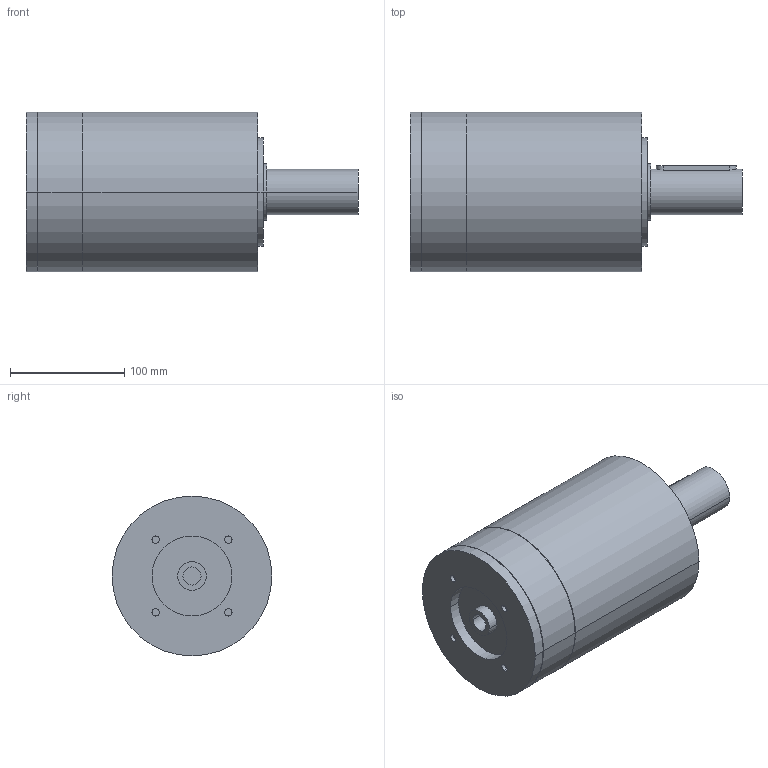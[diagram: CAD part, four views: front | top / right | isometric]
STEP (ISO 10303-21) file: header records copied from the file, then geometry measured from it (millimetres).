
FILE_DESCRIPTION(('CoCreate Modeling STEP Export'),'2;1');
FILE_NAME('GPR150_ig-9-12-16-20-28-35_40_B14_15.87_P15.stp','2014-08-19T17:02:53',(''),(''),'CoCreate Modeling STEP processor for AP214 (Solid Model)','CoCreate Modeling 16.00C 25-Feb-2009 (C) Parametric Technology GmbH','');
FILE_SCHEMA(('AUTOMOTIVE_DESIGN { 1 0 10303 214 1 1 1 1 }'));
Length unit declared in the file: millimetre
Products named in the file (2): GPR150_ig-9-12-16-20-28-35_40_B14_15.87_P15
Assembly tree (1 placements, depth 2):
  GPR150_ig-9-12-16-20-28-35_40_B14_15.87_P15
    GPR150_ig-9-12-16-20-28-35_40_B14_15.87_P15
Bounding box: 291 x 140 x 140 mm (x, y, z)
Volume: 3210581.4 mm3; surface area: 144522 mm2
Topology: 1 solids, 1 shells, 77 faces, 192 edges, 136 vertices
Faces by surface type: cylinder 46, plane 25, cone 6
Entity records: 1975 total; most frequent: CARTESIAN_POINT 381, ORIENTED_EDGE 380, DIRECTION 256, EDGE_CURVE 190, VERTEX_POINT 136, AXIS2_PLACEMENT_3D 99, EDGE_LOOP 98, FACE_OUTER_BOUND 77
